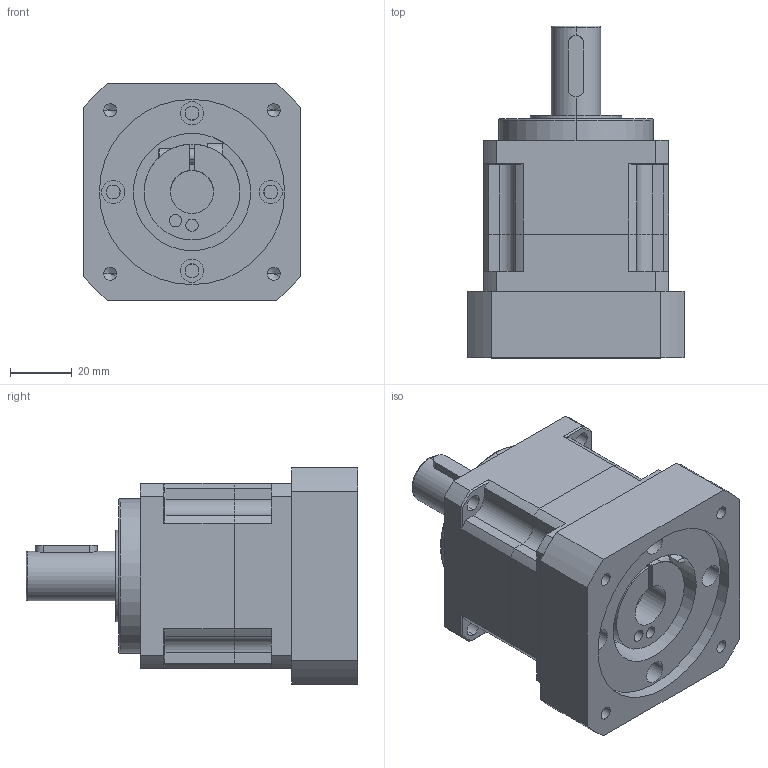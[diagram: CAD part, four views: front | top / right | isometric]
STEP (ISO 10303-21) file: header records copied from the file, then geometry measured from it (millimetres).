
FILE_DESCRIPTION (( 'STEP AP203' ), '1' );
FILE_NAME ('PX60-L1.STEP', '2022-03-31T09:10:36', ( 'Windows User' ), ( 'P R C' ), 'SwSTEP 2.0', 'SolidWorks 2018', '' );
FILE_SCHEMA (( 'CONFIG_CONTROL_DESIGN' ));
Length unit declared in the file: millimetre
Products named in the file (6): PB60俋倛芞奻裔啣_72T; 邧埴瑩 5x5x20; PB60外形图下盖板-分体-14; 囀鞠褒蹟佪-M5℅16; PX60-LJ 60-M5-75-LR32; PX60-L1
Assembly tree (5 placements, depth 2):
  PX60-L1
    PB60俋倛芞奻裔啣_72T
    PB60外形图下盖板-分体-14
    邧埴瑩 5x5x20
    囀鞠褒蹟佪-M5℅16
    PX60-LJ 60-M5-75-LR32
Bounding box: 70 x 107.5 x 70 mm (x, y, z)
Volume: 252197.1 mm3; surface area: 53747.9 mm2
Topology: 5 solids, 5 shells, 291 faces, 721 edges, 456 vertices
Faces by surface type: cylinder 150, plane 105, cone 28, torus 8
Entity records: 9473 total; most frequent: CARTESIAN_POINT 1722, DIRECTION 1597, ORIENTED_EDGE 1406, EDGE_CURVE 703, AXIS2_PLACEMENT_3D 623, VERTEX_POINT 456, EDGE_LOOP 357, VECTOR 351
